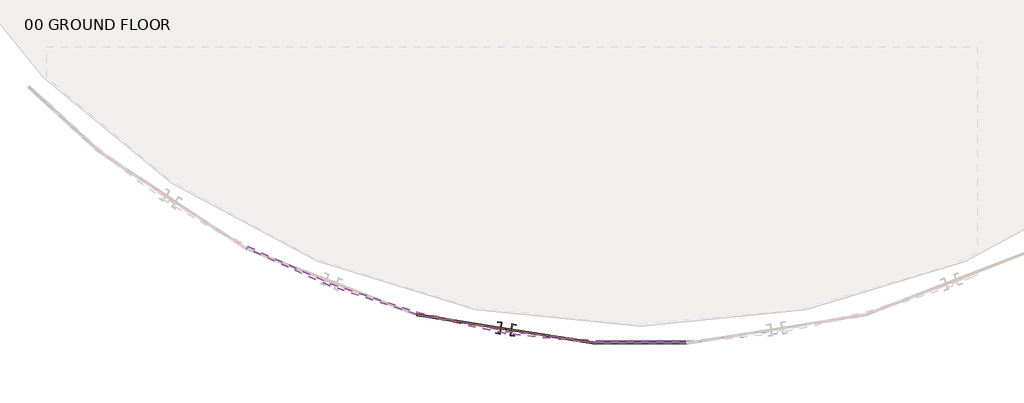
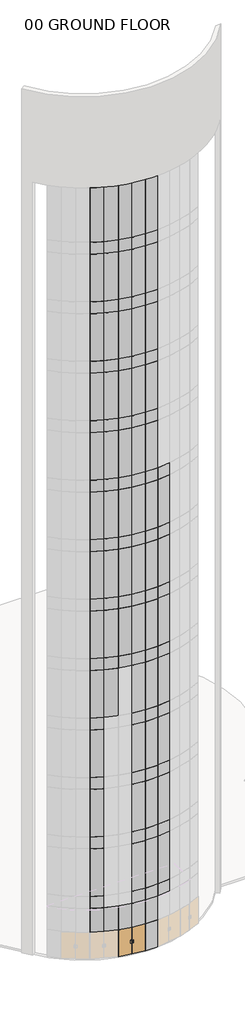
# One storey, part 2 of 33: 126 plates, 1 door.
"""IFC4 building model written with IfcOpenShell, lengths in millimetres."""

from ifc_helpers import new_model, si_unit, origin, place, context, project, spatial, transform, mapped, element, save
from components import door_curtain_wall_double_glass_door_curtain_wall_double_bdbd88c7, system_panel_su_blue_125f0d55, system_panel_su_blue_33e27b82, system_panel_su_blue_3064f965, system_panel_su_blue_5a18cedf, system_panel_su_blue_3781345d

model = new_model("IFC4")

# Units and contexts
model_context = context("Model", 3, world=origin())
ifc_project = project(units=[si_unit("LENGTHUNIT", "METRE", prefix="MILLI")], contexts=[model_context])

# Site, building, storey
site = spatial("IfcSite", under=ifc_project)
building = spatial("IfcBuilding", under=site)
storey = spatial("IfcBuildingStorey", under=building, Name="00 GROUND FLOOR", Elevation=0.0)

# Door
placement = place(None, origin())
door_curtain_wall_double_glass_door_curtain_wall_double_shape = door_curtain_wall_double_glass_door_curtain_wall_double_bdbd88c7(model_context)
element("IfcDoor", 1, ObjectType="Door-Curtain-Wall-Double-Glass : Door-Curtain-Wall-Double-Glass", at=placement, inside=storey, context=model_context, shape_type="MappedRepresentation", body=[
    mapped(door_curtain_wall_double_glass_door_curtain_wall_double_shape, transform((28367.1976734, -3602.6581393, 63.5), x_axis=(-0.9874294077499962, 0.15806063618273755, 0.0), y_axis=(-0.15806063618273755, -0.9874294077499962, 0.0), z_axis=(0.0, 0.0, 1.0))),
])

# Plates
system_panel_su_blue_shape = system_panel_su_blue_125f0d55(model_context)
element("IfcPlate", 2, ObjectType="System Panel : SU_BLUE", at=placement, inside=storey, context=model_context, shape_type="MappedRepresentation", body=[
    mapped(system_panel_su_blue_shape, transform((29712.2025257, -3745.5168373, 63.5), x_axis=(-1.0, 0.0, 0.0), y_axis=(0.0, -1.0, 0.0), z_axis=(0.0, 0.0, 1.0))),
])
system_panel_su_blue_2_shape = system_panel_su_blue_33e27b82(model_context)
element("IfcPlate", 3, ObjectType="System Panel : SU_BLUE", at=placement, inside=storey, context=model_context, shape_type="MappedRepresentation", body=[
    mapped(system_panel_su_blue_2_shape, transform((30614.7598809, -3697.7190348, 3962.4), x_axis=(-0.9944065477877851, -0.10562015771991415, 0.0), y_axis=(0.10562015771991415, -0.9944065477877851, 0.0), z_axis=(0.0, 0.0, 1.0))),
])
element("IfcPlate", 4, ObjectType="System Panel : SU_BLUE", at=placement, inside=storey, context=model_context, shape_type="MappedRepresentation", body=[
    mapped(system_panel_su_blue_2_shape, transform((29712.2025257, -3745.5168373, 3962.4), x_axis=(-1.0, 0.0, 0.0), y_axis=(0.0, -1.0, 0.0), z_axis=(0.0, 0.0, 1.0))),
])
element("IfcPlate", 5, ObjectType="System Panel : SU_BLUE", at=placement, inside=storey, context=model_context, shape_type="MappedRepresentation", body=[
    mapped(system_panel_su_blue_2_shape, transform((28809.6451706, -3697.7190348, 3962.4), x_axis=(-0.9944065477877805, 0.10562015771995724, 0.0), y_axis=(-0.10562015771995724, -0.9944065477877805, 0.0), z_axis=(0.0, 0.0, 1.0))),
])
element("IfcPlate", 6, ObjectType="System Panel : SU_BLUE", at=placement, inside=storey, context=model_context, shape_type="MappedRepresentation", body=[
    mapped(system_panel_su_blue_2_shape, transform((26202.2648844, -2991.3983998, 3962.4), x_axis=(-0.9117506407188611, 0.41074416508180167, 0.0), y_axis=(-0.41074416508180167, -0.9117506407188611, 0.0), z_axis=(0.0, 0.0, 1.0))),
])
element("IfcPlate", 7, ObjectType="System Panel : SU_BLUE", at=placement, inside=storey, context=model_context, shape_type="MappedRepresentation", body=[
    mapped(system_panel_su_blue_2_shape, transform((30614.7598809, -3697.7190348, 8534.4), x_axis=(-0.9944065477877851, -0.10562015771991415, 0.0), y_axis=(0.10562015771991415, -0.9944065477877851, 0.0), z_axis=(0.0, 0.0, 1.0))),
])
element("IfcPlate", 8, ObjectType="System Panel : SU_BLUE", at=placement, inside=storey, context=model_context, shape_type="MappedRepresentation", body=[
    mapped(system_panel_su_blue_2_shape, transform((29712.2025257, -3745.5168373, 8534.4), x_axis=(-1.0, 0.0, 0.0), y_axis=(0.0, -1.0, 0.0), z_axis=(0.0, 0.0, 1.0))),
])
element("IfcPlate", 9, ObjectType="System Panel : SU_BLUE", at=placement, inside=storey, context=model_context, shape_type="MappedRepresentation", body=[
    mapped(system_panel_su_blue_2_shape, transform((28809.6451706, -3697.7190348, 8534.4), x_axis=(-0.9944065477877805, 0.10562015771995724, 0.0), y_axis=(-0.10562015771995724, -0.9944065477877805, 0.0), z_axis=(0.0, 0.0, 1.0))),
])
element("IfcPlate", 10, ObjectType="System Panel : SU_BLUE", at=placement, inside=storey, context=model_context, shape_type="MappedRepresentation", body=[
    mapped(system_panel_su_blue_2_shape, transform((26202.2648844, -2991.3983998, 8534.4), x_axis=(-0.9117506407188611, 0.41074416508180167, 0.0), y_axis=(-0.41074416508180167, -0.9117506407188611, 0.0), z_axis=(0.0, 0.0, 1.0))),
])
element("IfcPlate", 11, ObjectType="System Panel : SU_BLUE", at=placement, inside=storey, context=model_context, shape_type="MappedRepresentation", body=[
    mapped(system_panel_su_blue_2_shape, transform((30614.7598809, -3697.7190348, 13106.4), x_axis=(-0.9944065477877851, -0.10562015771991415, 0.0), y_axis=(0.10562015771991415, -0.9944065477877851, 0.0), z_axis=(0.0, 0.0, 1.0))),
])
element("IfcPlate", 12, ObjectType="System Panel : SU_BLUE", at=placement, inside=storey, context=model_context, shape_type="MappedRepresentation", body=[
    mapped(system_panel_su_blue_2_shape, transform((29712.2025257, -3745.5168373, 13106.4), x_axis=(-1.0, 0.0, 0.0), y_axis=(0.0, -1.0, 0.0), z_axis=(0.0, 0.0, 1.0))),
])
element("IfcPlate", 13, ObjectType="System Panel : SU_BLUE", at=placement, inside=storey, context=model_context, shape_type="MappedRepresentation", body=[
    mapped(system_panel_su_blue_2_shape, transform((28809.6451706, -3697.7190348, 13106.4), x_axis=(-0.9944065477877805, 0.10562015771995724, 0.0), y_axis=(-0.10562015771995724, -0.9944065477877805, 0.0), z_axis=(0.0, 0.0, 1.0))),
])
element("IfcPlate", 14, ObjectType="System Panel : SU_BLUE", at=placement, inside=storey, context=model_context, shape_type="MappedRepresentation", body=[
    mapped(system_panel_su_blue_2_shape, transform((26202.2648844, -2991.3983998, 13106.4), x_axis=(-0.9117506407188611, 0.41074416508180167, 0.0), y_axis=(-0.41074416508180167, -0.9117506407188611, 0.0), z_axis=(0.0, 0.0, 1.0))),
])
element("IfcPlate", 15, ObjectType="System Panel : SU_BLUE", at=placement, inside=storey, context=model_context, shape_type="MappedRepresentation", body=[
    mapped(system_panel_su_blue_2_shape, transform((30614.7598809, -3697.7190348, 17678.4), x_axis=(-0.9944065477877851, -0.10562015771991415, 0.0), y_axis=(0.10562015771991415, -0.9944065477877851, 0.0), z_axis=(0.0, 0.0, 1.0))),
])
element("IfcPlate", 16, ObjectType="System Panel : SU_BLUE", at=placement, inside=storey, context=model_context, shape_type="MappedRepresentation", body=[
    mapped(system_panel_su_blue_2_shape, transform((29712.2025257, -3745.5168373, 17678.4), x_axis=(-1.0, 0.0, 0.0), y_axis=(0.0, -1.0, 0.0), z_axis=(0.0, 0.0, 1.0))),
])
element("IfcPlate", 17, ObjectType="System Panel : SU_BLUE", at=placement, inside=storey, context=model_context, shape_type="MappedRepresentation", body=[
    mapped(system_panel_su_blue_2_shape, transform((28809.6451706, -3697.7190348, 17678.4), x_axis=(-0.9944065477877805, 0.10562015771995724, 0.0), y_axis=(-0.10562015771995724, -0.9944065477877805, 0.0), z_axis=(0.0, 0.0, 1.0))),
])
element("IfcPlate", 18, ObjectType="System Panel : SU_BLUE", at=placement, inside=storey, context=model_context, shape_type="MappedRepresentation", body=[
    mapped(system_panel_su_blue_2_shape, transform((26202.2648844, -2991.3983998, 17678.4), x_axis=(-0.9117506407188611, 0.41074416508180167, 0.0), y_axis=(-0.41074416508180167, -0.9117506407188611, 0.0), z_axis=(0.0, 0.0, 1.0))),
])
element("IfcPlate", 19, ObjectType="System Panel : SU_BLUE", at=placement, inside=storey, context=model_context, shape_type="MappedRepresentation", body=[
    mapped(system_panel_su_blue_2_shape, transform((30614.7598809, -3697.7190348, 22250.4), x_axis=(-0.9944065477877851, -0.10562015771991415, 0.0), y_axis=(0.10562015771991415, -0.9944065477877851, 0.0), z_axis=(0.0, 0.0, 1.0))),
])
element("IfcPlate", 20, ObjectType="System Panel : SU_BLUE", at=placement, inside=storey, context=model_context, shape_type="MappedRepresentation", body=[
    mapped(system_panel_su_blue_2_shape, transform((29712.2025257, -3745.5168373, 22250.4), x_axis=(-1.0, 0.0, 0.0), y_axis=(0.0, -1.0, 0.0), z_axis=(0.0, 0.0, 1.0))),
])
element("IfcPlate", 21, ObjectType="System Panel : SU_BLUE", at=placement, inside=storey, context=model_context, shape_type="MappedRepresentation", body=[
    mapped(system_panel_su_blue_2_shape, transform((28809.6451706, -3697.7190348, 22250.4), x_axis=(-0.9944065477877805, 0.10562015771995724, 0.0), y_axis=(-0.10562015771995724, -0.9944065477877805, 0.0), z_axis=(0.0, 0.0, 1.0))),
])
element("IfcPlate", 22, ObjectType="System Panel : SU_BLUE", at=placement, inside=storey, context=model_context, shape_type="MappedRepresentation", body=[
    mapped(system_panel_su_blue_2_shape, transform((27917.1846384, -3554.8603369, 22250.4), x_axis=(-0.977688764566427, 0.21005875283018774, 0.0), y_axis=(-0.21005875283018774, -0.977688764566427, 0.0), z_axis=(0.0, 0.0, 1.0))),
])
element("IfcPlate", 23, ObjectType="System Panel : SU_BLUE", at=placement, inside=storey, context=model_context, shape_type="MappedRepresentation", body=[
    mapped(system_panel_su_blue_2_shape, transform((27044.8047997, -3318.5388901, 22250.4), x_axis=(-0.9500336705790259, 0.31214744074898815, 0.0), y_axis=(-0.31214744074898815, -0.9500336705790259, 0.0), z_axis=(0.0, 0.0, 1.0))),
])
element("IfcPlate", 24, ObjectType="System Panel : SU_BLUE", at=placement, inside=storey, context=model_context, shape_type="MappedRepresentation", body=[
    mapped(system_panel_su_blue_2_shape, transform((26202.2648844, -2991.3983998, 22250.4), x_axis=(-0.9117506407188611, 0.41074416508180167, 0.0), y_axis=(-0.41074416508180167, -0.9117506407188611, 0.0), z_axis=(0.0, 0.0, 1.0))),
])
element("IfcPlate", 25, ObjectType="System Panel : SU_BLUE", at=placement, inside=storey, context=model_context, shape_type="MappedRepresentation", body=[
    mapped(system_panel_su_blue_2_shape, transform((30614.7598809, -3697.7190348, 26822.4), x_axis=(-0.9944065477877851, -0.10562015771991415, 0.0), y_axis=(0.10562015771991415, -0.9944065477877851, 0.0), z_axis=(0.0, 0.0, 1.0))),
])
element("IfcPlate", 26, ObjectType="System Panel : SU_BLUE", at=placement, inside=storey, context=model_context, shape_type="MappedRepresentation", body=[
    mapped(system_panel_su_blue_2_shape, transform((29712.2025257, -3745.5168373, 26822.4), x_axis=(-1.0, 0.0, 0.0), y_axis=(0.0, -1.0, 0.0), z_axis=(0.0, 0.0, 1.0))),
])
element("IfcPlate", 27, ObjectType="System Panel : SU_BLUE", at=placement, inside=storey, context=model_context, shape_type="MappedRepresentation", body=[
    mapped(system_panel_su_blue_2_shape, transform((28809.6451706, -3697.7190348, 26822.4), x_axis=(-0.9944065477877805, 0.10562015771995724, 0.0), y_axis=(-0.10562015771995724, -0.9944065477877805, 0.0), z_axis=(0.0, 0.0, 1.0))),
])
element("IfcPlate", 28, ObjectType="System Panel : SU_BLUE", at=placement, inside=storey, context=model_context, shape_type="MappedRepresentation", body=[
    mapped(system_panel_su_blue_2_shape, transform((27917.1846384, -3554.8603369, 26822.4), x_axis=(-0.977688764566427, 0.21005875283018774, 0.0), y_axis=(-0.21005875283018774, -0.977688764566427, 0.0), z_axis=(0.0, 0.0, 1.0))),
])
element("IfcPlate", 29, ObjectType="System Panel : SU_BLUE", at=placement, inside=storey, context=model_context, shape_type="MappedRepresentation", body=[
    mapped(system_panel_su_blue_2_shape, transform((27044.8047997, -3318.5388901, 26822.4), x_axis=(-0.9500336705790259, 0.31214744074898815, 0.0), y_axis=(-0.31214744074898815, -0.9500336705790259, 0.0), z_axis=(0.0, 0.0, 1.0))),
])
element("IfcPlate", 30, ObjectType="System Panel : SU_BLUE", at=placement, inside=storey, context=model_context, shape_type="MappedRepresentation", body=[
    mapped(system_panel_su_blue_2_shape, transform((26202.2648844, -2991.3983998, 26822.4), x_axis=(-0.9117506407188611, 0.41074416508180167, 0.0), y_axis=(-0.41074416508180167, -0.9117506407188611, 0.0), z_axis=(0.0, 0.0, 1.0))),
])
element("IfcPlate", 31, ObjectType="System Panel : SU_BLUE", at=placement, inside=storey, context=model_context, shape_type="MappedRepresentation", body=[
    mapped(system_panel_su_blue_2_shape, transform((30614.7598809, -3697.7190348, 31394.4), x_axis=(-0.9944065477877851, -0.10562015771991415, 0.0), y_axis=(0.10562015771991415, -0.9944065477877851, 0.0), z_axis=(0.0, 0.0, 1.0))),
])
element("IfcPlate", 32, ObjectType="System Panel : SU_BLUE", at=placement, inside=storey, context=model_context, shape_type="MappedRepresentation", body=[
    mapped(system_panel_su_blue_2_shape, transform((29712.2025257, -3745.5168373, 31394.4), x_axis=(-1.0, 0.0, 0.0), y_axis=(0.0, -1.0, 0.0), z_axis=(0.0, 0.0, 1.0))),
])
element("IfcPlate", 33, ObjectType="System Panel : SU_BLUE", at=placement, inside=storey, context=model_context, shape_type="MappedRepresentation", body=[
    mapped(system_panel_su_blue_2_shape, transform((28809.6451706, -3697.7190348, 31394.4), x_axis=(-0.9944065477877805, 0.10562015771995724, 0.0), y_axis=(-0.10562015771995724, -0.9944065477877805, 0.0), z_axis=(0.0, 0.0, 1.0))),
])
element("IfcPlate", 34, ObjectType="System Panel : SU_BLUE", at=placement, inside=storey, context=model_context, shape_type="MappedRepresentation", body=[
    mapped(system_panel_su_blue_2_shape, transform((27917.1846384, -3554.8603369, 31394.4), x_axis=(-0.977688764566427, 0.21005875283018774, 0.0), y_axis=(-0.21005875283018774, -0.977688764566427, 0.0), z_axis=(0.0, 0.0, 1.0))),
])
element("IfcPlate", 35, ObjectType="System Panel : SU_BLUE", at=placement, inside=storey, context=model_context, shape_type="MappedRepresentation", body=[
    mapped(system_panel_su_blue_2_shape, transform((27044.8047997, -3318.5388901, 31394.4), x_axis=(-0.9500336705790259, 0.31214744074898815, 0.0), y_axis=(-0.31214744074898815, -0.9500336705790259, 0.0), z_axis=(0.0, 0.0, 1.0))),
])
element("IfcPlate", 36, ObjectType="System Panel : SU_BLUE", at=placement, inside=storey, context=model_context, shape_type="MappedRepresentation", body=[
    mapped(system_panel_su_blue_2_shape, transform((26202.2648844, -2991.3983998, 31394.4), x_axis=(-0.9117506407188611, 0.41074416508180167, 0.0), y_axis=(-0.41074416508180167, -0.9117506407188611, 0.0), z_axis=(0.0, 0.0, 1.0))),
])
element("IfcPlate", 37, ObjectType="System Panel : SU_BLUE", at=placement, inside=storey, context=model_context, shape_type="MappedRepresentation", body=[
    mapped(system_panel_su_blue_2_shape, transform((30614.7598809, -3697.7190348, 35966.4), x_axis=(-0.9944065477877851, -0.10562015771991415, 0.0), y_axis=(0.10562015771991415, -0.9944065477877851, 0.0), z_axis=(0.0, 0.0, 1.0))),
])
element("IfcPlate", 38, ObjectType="System Panel : SU_BLUE", at=placement, inside=storey, context=model_context, shape_type="MappedRepresentation", body=[
    mapped(system_panel_su_blue_2_shape, transform((29712.2025257, -3745.5168373, 35966.4), x_axis=(-1.0, 0.0, 0.0), y_axis=(0.0, -1.0, 0.0), z_axis=(0.0, 0.0, 1.0))),
])
element("IfcPlate", 39, ObjectType="System Panel : SU_BLUE", at=placement, inside=storey, context=model_context, shape_type="MappedRepresentation", body=[
    mapped(system_panel_su_blue_2_shape, transform((28809.6451706, -3697.7190348, 35966.4), x_axis=(-0.9944065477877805, 0.10562015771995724, 0.0), y_axis=(-0.10562015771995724, -0.9944065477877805, 0.0), z_axis=(0.0, 0.0, 1.0))),
])
element("IfcPlate", 40, ObjectType="System Panel : SU_BLUE", at=placement, inside=storey, context=model_context, shape_type="MappedRepresentation", body=[
    mapped(system_panel_su_blue_2_shape, transform((27917.1846384, -3554.8603369, 35966.4), x_axis=(-0.977688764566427, 0.21005875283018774, 0.0), y_axis=(-0.21005875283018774, -0.977688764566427, 0.0), z_axis=(0.0, 0.0, 1.0))),
])
element("IfcPlate", 41, ObjectType="System Panel : SU_BLUE", at=placement, inside=storey, context=model_context, shape_type="MappedRepresentation", body=[
    mapped(system_panel_su_blue_2_shape, transform((27044.8047997, -3318.5388901, 35966.4), x_axis=(-0.9500336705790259, 0.31214744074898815, 0.0), y_axis=(-0.31214744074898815, -0.9500336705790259, 0.0), z_axis=(0.0, 0.0, 1.0))),
])
element("IfcPlate", 42, ObjectType="System Panel : SU_BLUE", at=placement, inside=storey, context=model_context, shape_type="MappedRepresentation", body=[
    mapped(system_panel_su_blue_2_shape, transform((26202.2648844, -2991.3983998, 35966.4), x_axis=(-0.9117506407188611, 0.41074416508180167, 0.0), y_axis=(-0.41074416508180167, -0.9117506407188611, 0.0), z_axis=(0.0, 0.0, 1.0))),
])
element("IfcPlate", 43, ObjectType="System Panel : SU_BLUE", at=placement, inside=storey, context=model_context, shape_type="MappedRepresentation", body=[
    mapped(system_panel_su_blue_2_shape, transform((29712.2025257, -3745.5168373, 40538.4), x_axis=(-1.0, 0.0, 0.0), y_axis=(0.0, -1.0, 0.0), z_axis=(0.0, 0.0, 1.0))),
])
element("IfcPlate", 44, ObjectType="System Panel : SU_BLUE", at=placement, inside=storey, context=model_context, shape_type="MappedRepresentation", body=[
    mapped(system_panel_su_blue_2_shape, transform((28809.6451706, -3697.7190348, 40538.4), x_axis=(-0.9944065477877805, 0.10562015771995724, 0.0), y_axis=(-0.10562015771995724, -0.9944065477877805, 0.0), z_axis=(0.0, 0.0, 1.0))),
])
element("IfcPlate", 45, ObjectType="System Panel : SU_BLUE", at=placement, inside=storey, context=model_context, shape_type="MappedRepresentation", body=[
    mapped(system_panel_su_blue_2_shape, transform((27917.1846384, -3554.8603369, 40538.4), x_axis=(-0.977688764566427, 0.21005875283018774, 0.0), y_axis=(-0.21005875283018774, -0.977688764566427, 0.0), z_axis=(0.0, 0.0, 1.0))),
])
element("IfcPlate", 46, ObjectType="System Panel : SU_BLUE", at=placement, inside=storey, context=model_context, shape_type="MappedRepresentation", body=[
    mapped(system_panel_su_blue_2_shape, transform((27044.8047997, -3318.5388901, 40538.4), x_axis=(-0.9500336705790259, 0.31214744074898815, 0.0), y_axis=(-0.31214744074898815, -0.9500336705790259, 0.0), z_axis=(0.0, 0.0, 1.0))),
])
element("IfcPlate", 47, ObjectType="System Panel : SU_BLUE", at=placement, inside=storey, context=model_context, shape_type="MappedRepresentation", body=[
    mapped(system_panel_su_blue_2_shape, transform((26202.2648844, -2991.3983998, 40538.4), x_axis=(-0.9117506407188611, 0.41074416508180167, 0.0), y_axis=(-0.41074416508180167, -0.9117506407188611, 0.0), z_axis=(0.0, 0.0, 1.0))),
])
element("IfcPlate", 48, ObjectType="System Panel : SU_BLUE", at=placement, inside=storey, context=model_context, shape_type="MappedRepresentation", body=[
    mapped(system_panel_su_blue_2_shape, transform((29712.2025257, -3745.5168373, 45110.4), x_axis=(-1.0, 0.0, 0.0), y_axis=(0.0, -1.0, 0.0), z_axis=(0.0, 0.0, 1.0))),
])
element("IfcPlate", 49, ObjectType="System Panel : SU_BLUE", at=placement, inside=storey, context=model_context, shape_type="MappedRepresentation", body=[
    mapped(system_panel_su_blue_2_shape, transform((28809.6451706, -3697.7190348, 45110.4), x_axis=(-0.9944065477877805, 0.10562015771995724, 0.0), y_axis=(-0.10562015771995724, -0.9944065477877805, 0.0), z_axis=(0.0, 0.0, 1.0))),
])
element("IfcPlate", 50, ObjectType="System Panel : SU_BLUE", at=placement, inside=storey, context=model_context, shape_type="MappedRepresentation", body=[
    mapped(system_panel_su_blue_2_shape, transform((27917.1846384, -3554.8603369, 45110.4), x_axis=(-0.977688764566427, 0.21005875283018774, 0.0), y_axis=(-0.21005875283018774, -0.977688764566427, 0.0), z_axis=(0.0, 0.0, 1.0))),
])
element("IfcPlate", 51, ObjectType="System Panel : SU_BLUE", at=placement, inside=storey, context=model_context, shape_type="MappedRepresentation", body=[
    mapped(system_panel_su_blue_2_shape, transform((27044.8047997, -3318.5388901, 45110.4), x_axis=(-0.9500336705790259, 0.31214744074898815, 0.0), y_axis=(-0.31214744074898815, -0.9500336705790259, 0.0), z_axis=(0.0, 0.0, 1.0))),
])
element("IfcPlate", 52, ObjectType="System Panel : SU_BLUE", at=placement, inside=storey, context=model_context, shape_type="MappedRepresentation", body=[
    mapped(system_panel_su_blue_2_shape, transform((26202.2648844, -2991.3983998, 45110.4), x_axis=(-0.9117506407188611, 0.41074416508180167, 0.0), y_axis=(-0.41074416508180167, -0.9117506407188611, 0.0), z_axis=(0.0, 0.0, 1.0))),
])
element("IfcPlate", 53, ObjectType="System Panel : SU_BLUE", at=placement, inside=storey, context=model_context, shape_type="MappedRepresentation", body=[
    mapped(system_panel_su_blue_2_shape, transform((29712.2025257, -3745.5168373, 49682.4), x_axis=(-1.0, 0.0, 0.0), y_axis=(0.0, -1.0, 0.0), z_axis=(0.0, 0.0, 1.0))),
])
element("IfcPlate", 54, ObjectType="System Panel : SU_BLUE", at=placement, inside=storey, context=model_context, shape_type="MappedRepresentation", body=[
    mapped(system_panel_su_blue_2_shape, transform((28809.6451706, -3697.7190348, 49682.4), x_axis=(-0.9944065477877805, 0.10562015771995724, 0.0), y_axis=(-0.10562015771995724, -0.9944065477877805, 0.0), z_axis=(0.0, 0.0, 1.0))),
])
element("IfcPlate", 55, ObjectType="System Panel : SU_BLUE", at=placement, inside=storey, context=model_context, shape_type="MappedRepresentation", body=[
    mapped(system_panel_su_blue_2_shape, transform((27917.1846384, -3554.8603369, 49682.4), x_axis=(-0.977688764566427, 0.21005875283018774, 0.0), y_axis=(-0.21005875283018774, -0.977688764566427, 0.0), z_axis=(0.0, 0.0, 1.0))),
])
element("IfcPlate", 56, ObjectType="System Panel : SU_BLUE", at=placement, inside=storey, context=model_context, shape_type="MappedRepresentation", body=[
    mapped(system_panel_su_blue_2_shape, transform((27044.8047997, -3318.5388901, 49682.4), x_axis=(-0.9500336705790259, 0.31214744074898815, 0.0), y_axis=(-0.31214744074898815, -0.9500336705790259, 0.0), z_axis=(0.0, 0.0, 1.0))),
])
element("IfcPlate", 57, ObjectType="System Panel : SU_BLUE", at=placement, inside=storey, context=model_context, shape_type="MappedRepresentation", body=[
    mapped(system_panel_su_blue_2_shape, transform((26202.2648844, -2991.3983998, 49682.4), x_axis=(-0.9117506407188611, 0.41074416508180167, 0.0), y_axis=(-0.41074416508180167, -0.9117506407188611, 0.0), z_axis=(0.0, 0.0, 1.0))),
])
element("IfcPlate", 58, ObjectType="System Panel : SU_BLUE", at=placement, inside=storey, context=model_context, shape_type="MappedRepresentation", body=[
    mapped(system_panel_su_blue_2_shape, transform((29712.2025257, -3745.5168373, 54254.4), x_axis=(-1.0, 0.0, 0.0), y_axis=(0.0, -1.0, 0.0), z_axis=(0.0, 0.0, 1.0))),
])
element("IfcPlate", 59, ObjectType="System Panel : SU_BLUE", at=placement, inside=storey, context=model_context, shape_type="MappedRepresentation", body=[
    mapped(system_panel_su_blue_2_shape, transform((28809.6451706, -3697.7190348, 54254.4), x_axis=(-0.9944065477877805, 0.10562015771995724, 0.0), y_axis=(-0.10562015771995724, -0.9944065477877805, 0.0), z_axis=(0.0, 0.0, 1.0))),
])
element("IfcPlate", 60, ObjectType="System Panel : SU_BLUE", at=placement, inside=storey, context=model_context, shape_type="MappedRepresentation", body=[
    mapped(system_panel_su_blue_2_shape, transform((27917.1846384, -3554.8603369, 54254.4), x_axis=(-0.977688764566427, 0.21005875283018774, 0.0), y_axis=(-0.21005875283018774, -0.977688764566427, 0.0), z_axis=(0.0, 0.0, 1.0))),
])
element("IfcPlate", 61, ObjectType="System Panel : SU_BLUE", at=placement, inside=storey, context=model_context, shape_type="MappedRepresentation", body=[
    mapped(system_panel_su_blue_2_shape, transform((27044.8047997, -3318.5388901, 54254.4), x_axis=(-0.9500336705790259, 0.31214744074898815, 0.0), y_axis=(-0.31214744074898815, -0.9500336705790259, 0.0), z_axis=(0.0, 0.0, 1.0))),
])
element("IfcPlate", 62, ObjectType="System Panel : SU_BLUE", at=placement, inside=storey, context=model_context, shape_type="MappedRepresentation", body=[
    mapped(system_panel_su_blue_2_shape, transform((26202.2648844, -2991.3983998, 54254.4), x_axis=(-0.9117506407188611, 0.41074416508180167, 0.0), y_axis=(-0.41074416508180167, -0.9117506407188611, 0.0), z_axis=(0.0, 0.0, 1.0))),
])
system_panel_su_blue_3_shape = system_panel_su_blue_3064f965(model_context)
element("IfcPlate", 63, ObjectType="System Panel : SU_BLUE", at=placement, inside=storey, context=model_context, shape_type="MappedRepresentation", body=[
    mapped(system_panel_su_blue_3_shape, transform((30614.7598809, -3697.7190348, 4876.8), x_axis=(-0.9944065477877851, -0.10562015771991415, 0.0), y_axis=(0.10562015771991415, -0.9944065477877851, 0.0), z_axis=(0.0, 0.0, 1.0))),
])
element("IfcPlate", 64, ObjectType="System Panel : SU_BLUE", at=placement, inside=storey, context=model_context, shape_type="MappedRepresentation", body=[
    mapped(system_panel_su_blue_3_shape, transform((29712.2025257, -3745.5168373, 4876.8), x_axis=(-1.0, 0.0, 0.0), y_axis=(0.0, -1.0, 0.0), z_axis=(0.0, 0.0, 1.0))),
])
element("IfcPlate", 65, ObjectType="System Panel : SU_BLUE", at=placement, inside=storey, context=model_context, shape_type="MappedRepresentation", body=[
    mapped(system_panel_su_blue_3_shape, transform((28809.6451706, -3697.7190348, 4876.8), x_axis=(-0.9944065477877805, 0.10562015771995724, 0.0), y_axis=(-0.10562015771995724, -0.9944065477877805, 0.0), z_axis=(0.0, 0.0, 1.0))),
])
element("IfcPlate", 66, ObjectType="System Panel : SU_BLUE", at=placement, inside=storey, context=model_context, shape_type="MappedRepresentation", body=[
    mapped(system_panel_su_blue_3_shape, transform((26202.2648844, -2991.3983998, 4876.8), x_axis=(-0.9117506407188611, 0.41074416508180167, 0.0), y_axis=(-0.41074416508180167, -0.9117506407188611, 0.0), z_axis=(0.0, 0.0, 1.0))),
])
element("IfcPlate", 67, ObjectType="System Panel : SU_BLUE", at=placement, inside=storey, context=model_context, shape_type="MappedRepresentation", body=[
    mapped(system_panel_su_blue_3_shape, transform((30614.7598809, -3697.7190348, 9448.8), x_axis=(-0.9944065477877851, -0.10562015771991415, 0.0), y_axis=(0.10562015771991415, -0.9944065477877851, 0.0), z_axis=(0.0, 0.0, 1.0))),
])
element("IfcPlate", 68, ObjectType="System Panel : SU_BLUE", at=placement, inside=storey, context=model_context, shape_type="MappedRepresentation", body=[
    mapped(system_panel_su_blue_3_shape, transform((29712.2025257, -3745.5168373, 9448.8), x_axis=(-1.0, 0.0, 0.0), y_axis=(0.0, -1.0, 0.0), z_axis=(0.0, 0.0, 1.0))),
])
element("IfcPlate", 69, ObjectType="System Panel : SU_BLUE", at=placement, inside=storey, context=model_context, shape_type="MappedRepresentation", body=[
    mapped(system_panel_su_blue_3_shape, transform((28809.6451706, -3697.7190348, 9448.8), x_axis=(-0.9944065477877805, 0.10562015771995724, 0.0), y_axis=(-0.10562015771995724, -0.9944065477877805, 0.0), z_axis=(0.0, 0.0, 1.0))),
])
element("IfcPlate", 70, ObjectType="System Panel : SU_BLUE", at=placement, inside=storey, context=model_context, shape_type="MappedRepresentation", body=[
    mapped(system_panel_su_blue_3_shape, transform((26202.2648844, -2991.3983998, 9448.8), x_axis=(-0.9117506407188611, 0.41074416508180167, 0.0), y_axis=(-0.41074416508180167, -0.9117506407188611, 0.0), z_axis=(0.0, 0.0, 1.0))),
])
element("IfcPlate", 71, ObjectType="System Panel : SU_BLUE", at=placement, inside=storey, context=model_context, shape_type="MappedRepresentation", body=[
    mapped(system_panel_su_blue_3_shape, transform((30614.7598809, -3697.7190348, 14020.8), x_axis=(-0.9944065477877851, -0.10562015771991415, 0.0), y_axis=(0.10562015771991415, -0.9944065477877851, 0.0), z_axis=(0.0, 0.0, 1.0))),
])
element("IfcPlate", 72, ObjectType="System Panel : SU_BLUE", at=placement, inside=storey, context=model_context, shape_type="MappedRepresentation", body=[
    mapped(system_panel_su_blue_3_shape, transform((29712.2025257, -3745.5168373, 14020.8), x_axis=(-1.0, 0.0, 0.0), y_axis=(0.0, -1.0, 0.0), z_axis=(0.0, 0.0, 1.0))),
])
element("IfcPlate", 73, ObjectType="System Panel : SU_BLUE", at=placement, inside=storey, context=model_context, shape_type="MappedRepresentation", body=[
    mapped(system_panel_su_blue_3_shape, transform((28809.6451706, -3697.7190348, 14020.8), x_axis=(-0.9944065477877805, 0.10562015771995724, 0.0), y_axis=(-0.10562015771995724, -0.9944065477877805, 0.0), z_axis=(0.0, 0.0, 1.0))),
])
element("IfcPlate", 74, ObjectType="System Panel : SU_BLUE", at=placement, inside=storey, context=model_context, shape_type="MappedRepresentation", body=[
    mapped(system_panel_su_blue_3_shape, transform((26202.2648844, -2991.3983998, 14020.8), x_axis=(-0.9117506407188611, 0.41074416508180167, 0.0), y_axis=(-0.41074416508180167, -0.9117506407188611, 0.0), z_axis=(0.0, 0.0, 1.0))),
])
element("IfcPlate", 75, ObjectType="System Panel : SU_BLUE", at=placement, inside=storey, context=model_context, shape_type="MappedRepresentation", body=[
    mapped(system_panel_su_blue_3_shape, transform((30614.7598809, -3697.7190348, 18592.8), x_axis=(-0.9944065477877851, -0.10562015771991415, 0.0), y_axis=(0.10562015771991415, -0.9944065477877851, 0.0), z_axis=(0.0, 0.0, 1.0))),
])
element("IfcPlate", 76, ObjectType="System Panel : SU_BLUE", at=placement, inside=storey, context=model_context, shape_type="MappedRepresentation", body=[
    mapped(system_panel_su_blue_3_shape, transform((29712.2025257, -3745.5168373, 18592.8), x_axis=(-1.0, 0.0, 0.0), y_axis=(0.0, -1.0, 0.0), z_axis=(0.0, 0.0, 1.0))),
])
element("IfcPlate", 77, ObjectType="System Panel : SU_BLUE", at=placement, inside=storey, context=model_context, shape_type="MappedRepresentation", body=[
    mapped(system_panel_su_blue_3_shape, transform((28809.6451706, -3697.7190348, 18592.8), x_axis=(-0.9944065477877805, 0.10562015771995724, 0.0), y_axis=(-0.10562015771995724, -0.9944065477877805, 0.0), z_axis=(0.0, 0.0, 1.0))),
])
element("IfcPlate", 78, ObjectType="System Panel : SU_BLUE", at=placement, inside=storey, context=model_context, shape_type="MappedRepresentation", body=[
    mapped(system_panel_su_blue_3_shape, transform((27044.8047997, -3318.5388901, 18592.8), x_axis=(-0.9500336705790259, 0.31214744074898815, 0.0), y_axis=(-0.31214744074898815, -0.9500336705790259, 0.0), z_axis=(0.0, 0.0, 1.0))),
])
element("IfcPlate", 79, ObjectType="System Panel : SU_BLUE", at=placement, inside=storey, context=model_context, shape_type="MappedRepresentation", body=[
    mapped(system_panel_su_blue_3_shape, transform((26202.2648844, -2991.3983998, 18592.8), x_axis=(-0.9117506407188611, 0.41074416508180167, 0.0), y_axis=(-0.41074416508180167, -0.9117506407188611, 0.0), z_axis=(0.0, 0.0, 1.0))),
])
element("IfcPlate", 80, ObjectType="System Panel : SU_BLUE", at=placement, inside=storey, context=model_context, shape_type="MappedRepresentation", body=[
    mapped(system_panel_su_blue_3_shape, transform((30614.7598809, -3697.7190348, 23164.8), x_axis=(-0.9944065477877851, -0.10562015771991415, 0.0), y_axis=(0.10562015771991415, -0.9944065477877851, 0.0), z_axis=(0.0, 0.0, 1.0))),
])
element("IfcPlate", 81, ObjectType="System Panel : SU_BLUE", at=placement, inside=storey, context=model_context, shape_type="MappedRepresentation", body=[
    mapped(system_panel_su_blue_3_shape, transform((29712.2025257, -3745.5168373, 23164.8), x_axis=(-1.0, 0.0, 0.0), y_axis=(0.0, -1.0, 0.0), z_axis=(0.0, 0.0, 1.0))),
])
element("IfcPlate", 82, ObjectType="System Panel : SU_BLUE", at=placement, inside=storey, context=model_context, shape_type="MappedRepresentation", body=[
    mapped(system_panel_su_blue_3_shape, transform((28809.6451706, -3697.7190348, 23164.8), x_axis=(-0.9944065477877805, 0.10562015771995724, 0.0), y_axis=(-0.10562015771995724, -0.9944065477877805, 0.0), z_axis=(0.0, 0.0, 1.0))),
])
element("IfcPlate", 83, ObjectType="System Panel : SU_BLUE", at=placement, inside=storey, context=model_context, shape_type="MappedRepresentation", body=[
    mapped(system_panel_su_blue_3_shape, transform((27917.1846384, -3554.8603369, 23164.8), x_axis=(-0.977688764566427, 0.21005875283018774, 0.0), y_axis=(-0.21005875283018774, -0.977688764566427, 0.0), z_axis=(0.0, 0.0, 1.0))),
])
element("IfcPlate", 84, ObjectType="System Panel : SU_BLUE", at=placement, inside=storey, context=model_context, shape_type="MappedRepresentation", body=[
    mapped(system_panel_su_blue_3_shape, transform((27044.8047997, -3318.5388901, 23164.8), x_axis=(-0.9500336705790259, 0.31214744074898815, 0.0), y_axis=(-0.31214744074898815, -0.9500336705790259, 0.0), z_axis=(0.0, 0.0, 1.0))),
])
element("IfcPlate", 85, ObjectType="System Panel : SU_BLUE", at=placement, inside=storey, context=model_context, shape_type="MappedRepresentation", body=[
    mapped(system_panel_su_blue_3_shape, transform((26202.2648844, -2991.3983998, 23164.8), x_axis=(-0.9117506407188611, 0.41074416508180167, 0.0), y_axis=(-0.41074416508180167, -0.9117506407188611, 0.0), z_axis=(0.0, 0.0, 1.0))),
])
element("IfcPlate", 86, ObjectType="System Panel : SU_BLUE", at=placement, inside=storey, context=model_context, shape_type="MappedRepresentation", body=[
    mapped(system_panel_su_blue_3_shape, transform((30614.7598809, -3697.7190348, 27736.8), x_axis=(-0.9944065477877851, -0.10562015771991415, 0.0), y_axis=(0.10562015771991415, -0.9944065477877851, 0.0), z_axis=(0.0, 0.0, 1.0))),
])
element("IfcPlate", 87, ObjectType="System Panel : SU_BLUE", at=placement, inside=storey, context=model_context, shape_type="MappedRepresentation", body=[
    mapped(system_panel_su_blue_3_shape, transform((29712.2025257, -3745.5168373, 27736.8), x_axis=(-1.0, 0.0, 0.0), y_axis=(0.0, -1.0, 0.0), z_axis=(0.0, 0.0, 1.0))),
])
element("IfcPlate", 88, ObjectType="System Panel : SU_BLUE", at=placement, inside=storey, context=model_context, shape_type="MappedRepresentation", body=[
    mapped(system_panel_su_blue_3_shape, transform((28809.6451706, -3697.7190348, 27736.8), x_axis=(-0.9944065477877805, 0.10562015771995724, 0.0), y_axis=(-0.10562015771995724, -0.9944065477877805, 0.0), z_axis=(0.0, 0.0, 1.0))),
])
element("IfcPlate", 89, ObjectType="System Panel : SU_BLUE", at=placement, inside=storey, context=model_context, shape_type="MappedRepresentation", body=[
    mapped(system_panel_su_blue_3_shape, transform((27917.1846384, -3554.8603369, 27736.8), x_axis=(-0.977688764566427, 0.21005875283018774, 0.0), y_axis=(-0.21005875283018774, -0.977688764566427, 0.0), z_axis=(0.0, 0.0, 1.0))),
])
element("IfcPlate", 90, ObjectType="System Panel : SU_BLUE", at=placement, inside=storey, context=model_context, shape_type="MappedRepresentation", body=[
    mapped(system_panel_su_blue_3_shape, transform((27044.8047997, -3318.5388901, 27736.8), x_axis=(-0.9500336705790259, 0.31214744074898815, 0.0), y_axis=(-0.31214744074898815, -0.9500336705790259, 0.0), z_axis=(0.0, 0.0, 1.0))),
])
element("IfcPlate", 91, ObjectType="System Panel : SU_BLUE", at=placement, inside=storey, context=model_context, shape_type="MappedRepresentation", body=[
    mapped(system_panel_su_blue_3_shape, transform((26202.2648844, -2991.3983998, 27736.8), x_axis=(-0.9117506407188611, 0.41074416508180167, 0.0), y_axis=(-0.41074416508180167, -0.9117506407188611, 0.0), z_axis=(0.0, 0.0, 1.0))),
])
element("IfcPlate", 92, ObjectType="System Panel : SU_BLUE", at=placement, inside=storey, context=model_context, shape_type="MappedRepresentation", body=[
    mapped(system_panel_su_blue_3_shape, transform((30614.7598809, -3697.7190348, 32308.8), x_axis=(-0.9944065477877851, -0.10562015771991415, 0.0), y_axis=(0.10562015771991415, -0.9944065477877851, 0.0), z_axis=(0.0, 0.0, 1.0))),
])
element("IfcPlate", 93, ObjectType="System Panel : SU_BLUE", at=placement, inside=storey, context=model_context, shape_type="MappedRepresentation", body=[
    mapped(system_panel_su_blue_3_shape, transform((29712.2025257, -3745.5168373, 32308.8), x_axis=(-1.0, 0.0, 0.0), y_axis=(0.0, -1.0, 0.0), z_axis=(0.0, 0.0, 1.0))),
])
element("IfcPlate", 94, ObjectType="System Panel : SU_BLUE", at=placement, inside=storey, context=model_context, shape_type="MappedRepresentation", body=[
    mapped(system_panel_su_blue_3_shape, transform((28809.6451706, -3697.7190348, 32308.8), x_axis=(-0.9944065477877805, 0.10562015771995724, 0.0), y_axis=(-0.10562015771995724, -0.9944065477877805, 0.0), z_axis=(0.0, 0.0, 1.0))),
])
element("IfcPlate", 95, ObjectType="System Panel : SU_BLUE", at=placement, inside=storey, context=model_context, shape_type="MappedRepresentation", body=[
    mapped(system_panel_su_blue_3_shape, transform((27917.1846384, -3554.8603369, 32308.8), x_axis=(-0.977688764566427, 0.21005875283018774, 0.0), y_axis=(-0.21005875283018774, -0.977688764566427, 0.0), z_axis=(0.0, 0.0, 1.0))),
])
element("IfcPlate", 96, ObjectType="System Panel : SU_BLUE", at=placement, inside=storey, context=model_context, shape_type="MappedRepresentation", body=[
    mapped(system_panel_su_blue_3_shape, transform((27044.8047997, -3318.5388901, 32308.8), x_axis=(-0.9500336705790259, 0.31214744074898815, 0.0), y_axis=(-0.31214744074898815, -0.9500336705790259, 0.0), z_axis=(0.0, 0.0, 1.0))),
])
element("IfcPlate", 97, ObjectType="System Panel : SU_BLUE", at=placement, inside=storey, context=model_context, shape_type="MappedRepresentation", body=[
    mapped(system_panel_su_blue_3_shape, transform((26202.2648844, -2991.3983998, 32308.8), x_axis=(-0.9117506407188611, 0.41074416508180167, 0.0), y_axis=(-0.41074416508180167, -0.9117506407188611, 0.0), z_axis=(0.0, 0.0, 1.0))),
])
element("IfcPlate", 98, ObjectType="System Panel : SU_BLUE", at=placement, inside=storey, context=model_context, shape_type="MappedRepresentation", body=[
    mapped(system_panel_su_blue_3_shape, transform((29712.2025257, -3745.5168373, 36880.8), x_axis=(-1.0, 0.0, 0.0), y_axis=(0.0, -1.0, 0.0), z_axis=(0.0, 0.0, 1.0))),
])
element("IfcPlate", 99, ObjectType="System Panel : SU_BLUE", at=placement, inside=storey, context=model_context, shape_type="MappedRepresentation", body=[
    mapped(system_panel_su_blue_3_shape, transform((28809.6451706, -3697.7190348, 36880.8), x_axis=(-0.9944065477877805, 0.10562015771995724, 0.0), y_axis=(-0.10562015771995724, -0.9944065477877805, 0.0), z_axis=(0.0, 0.0, 1.0))),
])
element("IfcPlate", 100, ObjectType="System Panel : SU_BLUE", at=placement, inside=storey, context=model_context, shape_type="MappedRepresentation", body=[
    mapped(system_panel_su_blue_3_shape, transform((27917.1846384, -3554.8603369, 36880.8), x_axis=(-0.977688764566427, 0.21005875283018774, 0.0), y_axis=(-0.21005875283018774, -0.977688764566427, 0.0), z_axis=(0.0, 0.0, 1.0))),
])
element("IfcPlate", 101, ObjectType="System Panel : SU_BLUE", at=placement, inside=storey, context=model_context, shape_type="MappedRepresentation", body=[
    mapped(system_panel_su_blue_3_shape, transform((27044.8047997, -3318.5388901, 36880.8), x_axis=(-0.9500336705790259, 0.3121474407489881, 0.0), y_axis=(-0.3121474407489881, -0.9500336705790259, 0.0), z_axis=(0.0, 0.0, 1.0))),
])
element("IfcPlate", 102, ObjectType="System Panel : SU_BLUE", at=placement, inside=storey, context=model_context, shape_type="MappedRepresentation", body=[
    mapped(system_panel_su_blue_3_shape, transform((26202.2648844, -2991.3983998, 36880.8), x_axis=(-0.9117506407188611, 0.4107441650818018, 0.0), y_axis=(-0.4107441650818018, -0.9117506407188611, 0.0), z_axis=(0.0, 0.0, 1.0))),
])
element("IfcPlate", 103, ObjectType="System Panel : SU_BLUE", at=placement, inside=storey, context=model_context, shape_type="MappedRepresentation", body=[
    mapped(system_panel_su_blue_3_shape, transform((29712.2025257, -3745.5168373, 41452.8), x_axis=(-1.0, 0.0, 0.0), y_axis=(0.0, -1.0, 0.0), z_axis=(0.0, 0.0, 1.0))),
])
element("IfcPlate", 104, ObjectType="System Panel : SU_BLUE", at=placement, inside=storey, context=model_context, shape_type="MappedRepresentation", body=[
    mapped(system_panel_su_blue_3_shape, transform((28809.6451706, -3697.7190348, 41452.8), x_axis=(-0.9944065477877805, 0.10562015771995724, 0.0), y_axis=(-0.10562015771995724, -0.9944065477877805, 0.0), z_axis=(0.0, 0.0, 1.0))),
])
element("IfcPlate", 105, ObjectType="System Panel : SU_BLUE", at=placement, inside=storey, context=model_context, shape_type="MappedRepresentation", body=[
    mapped(system_panel_su_blue_3_shape, transform((27917.1846384, -3554.8603369, 41452.8), x_axis=(-0.977688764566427, 0.21005875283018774, 0.0), y_axis=(-0.21005875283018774, -0.977688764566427, 0.0), z_axis=(0.0, 0.0, 1.0))),
])
element("IfcPlate", 106, ObjectType="System Panel : SU_BLUE", at=placement, inside=storey, context=model_context, shape_type="MappedRepresentation", body=[
    mapped(system_panel_su_blue_3_shape, transform((27044.8047997, -3318.5388901, 41452.8), x_axis=(-0.9500336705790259, 0.31214744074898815, 0.0), y_axis=(-0.31214744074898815, -0.9500336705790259, 0.0), z_axis=(0.0, 0.0, 1.0))),
])
element("IfcPlate", 107, ObjectType="System Panel : SU_BLUE", at=placement, inside=storey, context=model_context, shape_type="MappedRepresentation", body=[
    mapped(system_panel_su_blue_3_shape, transform((26202.2648844, -2991.3983998, 41452.8), x_axis=(-0.9117506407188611, 0.41074416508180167, 0.0), y_axis=(-0.41074416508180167, -0.9117506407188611, 0.0), z_axis=(0.0, 0.0, 1.0))),
])
element("IfcPlate", 108, ObjectType="System Panel : SU_BLUE", at=placement, inside=storey, context=model_context, shape_type="MappedRepresentation", body=[
    mapped(system_panel_su_blue_3_shape, transform((29712.2025257, -3745.5168373, 46024.8), x_axis=(-1.0, 0.0, 0.0), y_axis=(0.0, -1.0, 0.0), z_axis=(0.0, 0.0, 1.0))),
])
element("IfcPlate", 109, ObjectType="System Panel : SU_BLUE", at=placement, inside=storey, context=model_context, shape_type="MappedRepresentation", body=[
    mapped(system_panel_su_blue_3_shape, transform((28809.6451706, -3697.7190348, 46024.8), x_axis=(-0.9944065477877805, 0.10562015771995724, 0.0), y_axis=(-0.10562015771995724, -0.9944065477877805, 0.0), z_axis=(0.0, 0.0, 1.0))),
])
element("IfcPlate", 110, ObjectType="System Panel : SU_BLUE", at=placement, inside=storey, context=model_context, shape_type="MappedRepresentation", body=[
    mapped(system_panel_su_blue_3_shape, transform((27917.1846384, -3554.8603369, 46024.8), x_axis=(-0.977688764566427, 0.21005875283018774, 0.0), y_axis=(-0.21005875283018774, -0.977688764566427, 0.0), z_axis=(0.0, 0.0, 1.0))),
])
element("IfcPlate", 111, ObjectType="System Panel : SU_BLUE", at=placement, inside=storey, context=model_context, shape_type="MappedRepresentation", body=[
    mapped(system_panel_su_blue_3_shape, transform((27044.8047997, -3318.5388901, 46024.8), x_axis=(-0.9500336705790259, 0.31214744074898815, 0.0), y_axis=(-0.31214744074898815, -0.9500336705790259, 0.0), z_axis=(0.0, 0.0, 1.0))),
])
element("IfcPlate", 112, ObjectType="System Panel : SU_BLUE", at=placement, inside=storey, context=model_context, shape_type="MappedRepresentation", body=[
    mapped(system_panel_su_blue_3_shape, transform((26202.2648844, -2991.3983998, 46024.8), x_axis=(-0.9117506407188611, 0.41074416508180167, 0.0), y_axis=(-0.41074416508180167, -0.9117506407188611, 0.0), z_axis=(0.0, 0.0, 1.0))),
])
element("IfcPlate", 113, ObjectType="System Panel : SU_BLUE", at=placement, inside=storey, context=model_context, shape_type="MappedRepresentation", body=[
    mapped(system_panel_su_blue_3_shape, transform((29712.2025257, -3745.5168373, 50596.8), x_axis=(-1.0, 0.0, 0.0), y_axis=(0.0, -1.0, 0.0), z_axis=(0.0, 0.0, 1.0))),
])
element("IfcPlate", 114, ObjectType="System Panel : SU_BLUE", at=placement, inside=storey, context=model_context, shape_type="MappedRepresentation", body=[
    mapped(system_panel_su_blue_3_shape, transform((28809.6451706, -3697.7190348, 50596.8), x_axis=(-0.9944065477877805, 0.10562015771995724, 0.0), y_axis=(-0.10562015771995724, -0.9944065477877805, 0.0), z_axis=(0.0, 0.0, 1.0))),
])
element("IfcPlate", 115, ObjectType="System Panel : SU_BLUE", at=placement, inside=storey, context=model_context, shape_type="MappedRepresentation", body=[
    mapped(system_panel_su_blue_3_shape, transform((27917.1846384, -3554.8603369, 50596.8), x_axis=(-0.977688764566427, 0.21005875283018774, 0.0), y_axis=(-0.21005875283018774, -0.977688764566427, 0.0), z_axis=(0.0, 0.0, 1.0))),
])
element("IfcPlate", 116, ObjectType="System Panel : SU_BLUE", at=placement, inside=storey, context=model_context, shape_type="MappedRepresentation", body=[
    mapped(system_panel_su_blue_3_shape, transform((27044.8047997, -3318.5388901, 50596.8), x_axis=(-0.9500336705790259, 0.31214744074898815, 0.0), y_axis=(-0.31214744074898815, -0.9500336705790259, 0.0), z_axis=(0.0, 0.0, 1.0))),
])
element("IfcPlate", 117, ObjectType="System Panel : SU_BLUE", at=placement, inside=storey, context=model_context, shape_type="MappedRepresentation", body=[
    mapped(system_panel_su_blue_3_shape, transform((26202.2648844, -2991.3983998, 50596.8), x_axis=(-0.9117506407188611, 0.41074416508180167, 0.0), y_axis=(-0.41074416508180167, -0.9117506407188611, 0.0), z_axis=(0.0, 0.0, 1.0))),
])
system_panel_su_blue_4_shape = system_panel_su_blue_5a18cedf(model_context)
element("IfcPlate", 118, ObjectType="System Panel : SU_BLUE", at=placement, inside=storey, context=model_context, shape_type="MappedRepresentation", body=[
    mapped(system_panel_su_blue_4_shape, transform((29712.2025257, -3745.5168373, 2133.6), x_axis=(-1.0, 0.0, 0.0), y_axis=(0.0, -1.0, 0.0), z_axis=(0.0, 0.0, 1.0))),
])
element("IfcPlate", 119, ObjectType="System Panel : SU_BLUE", at=placement, inside=storey, context=model_context, shape_type="MappedRepresentation", body=[
    mapped(system_panel_su_blue_4_shape, transform((28809.6451706, -3697.7190348, 2133.6), x_axis=(-0.9944065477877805, 0.10562015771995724, 0.0), y_axis=(-0.10562015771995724, -0.9944065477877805, 0.0), z_axis=(0.0, 0.0, 1.0))),
])
element("IfcPlate", 120, ObjectType="System Panel : SU_BLUE", at=placement, inside=storey, context=model_context, shape_type="MappedRepresentation", body=[
    mapped(system_panel_su_blue_4_shape, transform((27917.1846384, -3554.8603369, 2133.6), x_axis=(-0.977688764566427, 0.21005875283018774, 0.0), y_axis=(-0.21005875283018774, -0.977688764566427, 0.0), z_axis=(0.0, 0.0, 1.0))),
])
element("IfcPlate", 121, ObjectType="System Panel : SU_BLUE", at=placement, inside=storey, context=model_context, shape_type="MappedRepresentation", body=[
    mapped(system_panel_su_blue_4_shape, transform((27044.8047997, -3318.5388901, 2133.6), x_axis=(-0.9500336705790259, 0.31214744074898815, 0.0), y_axis=(-0.31214744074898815, -0.9500336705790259, 0.0), z_axis=(0.0, 0.0, 1.0))),
])
element("IfcPlate", 122, ObjectType="System Panel : SU_BLUE", at=placement, inside=storey, context=model_context, shape_type="MappedRepresentation", body=[
    mapped(system_panel_su_blue_4_shape, transform((26202.2648844, -2991.3983998, 2133.6), x_axis=(-0.9117506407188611, 0.41074416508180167, 0.0), y_axis=(-0.41074416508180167, -0.9117506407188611, 0.0), z_axis=(0.0, 0.0, 1.0))),
])
system_panel_su_blue_5_shape = system_panel_su_blue_3781345d(model_context)
element("IfcPlate", 123, ObjectType="System Panel : SU_BLUE", at=placement, inside=storey, context=model_context, shape_type="MappedRepresentation", body=[
    mapped(system_panel_su_blue_5_shape, transform((29712.2025257, -3745.5168373, 55168.8), x_axis=(-1.0, 0.0, 0.0), y_axis=(0.0, -1.0, 0.0), z_axis=(0.0, 0.0, 1.0))),
])
element("IfcPlate", 124, ObjectType="System Panel : SU_BLUE", at=placement, inside=storey, context=model_context, shape_type="MappedRepresentation", body=[
    mapped(system_panel_su_blue_5_shape, transform((28809.6451706, -3697.7190348, 55168.8), x_axis=(-0.9944065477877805, 0.10562015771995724, 0.0), y_axis=(-0.10562015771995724, -0.9944065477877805, 0.0), z_axis=(0.0, 0.0, 1.0))),
])
element("IfcPlate", 125, ObjectType="System Panel : SU_BLUE", at=placement, inside=storey, context=model_context, shape_type="MappedRepresentation", body=[
    mapped(system_panel_su_blue_5_shape, transform((27917.1846384, -3554.8603369, 55168.8), x_axis=(-0.977688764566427, 0.21005875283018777, 0.0), y_axis=(-0.21005875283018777, -0.977688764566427, 0.0), z_axis=(0.0, 0.0, 1.0))),
])
element("IfcPlate", 126, ObjectType="System Panel : SU_BLUE", at=placement, inside=storey, context=model_context, shape_type="MappedRepresentation", body=[
    mapped(system_panel_su_blue_5_shape, transform((27044.8047997, -3318.5388901, 55168.8), x_axis=(-0.9500336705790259, 0.3121474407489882, 0.0), y_axis=(-0.3121474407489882, -0.9500336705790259, 0.0), z_axis=(0.0, 0.0, 1.0))),
])
element("IfcPlate", 127, ObjectType="System Panel : SU_BLUE", at=placement, inside=storey, context=model_context, shape_type="MappedRepresentation", body=[
    mapped(system_panel_su_blue_5_shape, transform((26202.2648844, -2991.3983998, 55168.8), x_axis=(-0.9117506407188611, 0.41074416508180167, 0.0), y_axis=(-0.41074416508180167, -0.9117506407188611, 0.0), z_axis=(0.0, 0.0, 1.0))),
])

save(model, "model.ifc")
